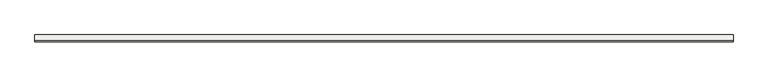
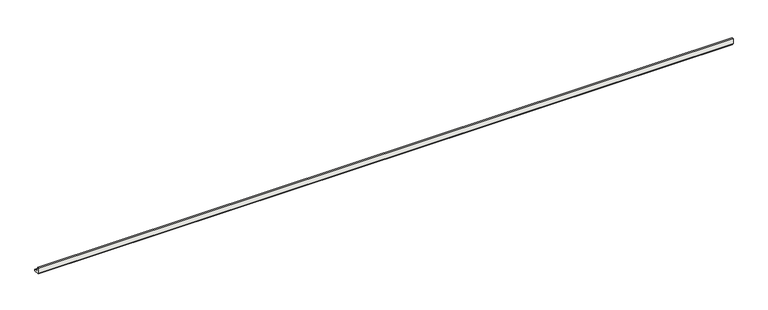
"""IFC4 building model written with IfcOpenShell, lengths in millimetres: slab geometry, ROSA GRES_188 : Pieza 188_Pietro_White_Anti-Slip."""

from ifc_helpers import new_model, si_unit, point, frame, frame_2d, origin, place, context, project, spatial, polyline, circle_curve, trimmed, segment, composite_curve, outline, extrude, source, transform, mapped, element, save


def slab_ea53779e(model_context):
    return source(origin(), model_context, "Body", "SweptSolid", [
        extrude(outline(composite_curve([segment(polyline([(0.0, 8.7114978), (0.0, 40.0), (9.9734114, 40.0)]), True, "CONTINUOUS"), segment(trimmed(circle_curve(frame_2d((39.9955547, 39.9955547)), 30.0221435), [point((9.9734114, 40.0))], [point((40.0, 9.9734114))], True, "CARTESIAN"), True, "CONTINUOUS"), segment(polyline([(40.0, 9.9734114), (40.0, 0.0), (8.7114978, 0.0), (0.0, 8.7114978)]), True, "CONTINUOUS")], self_intersect=False)), frame((0.0, 0.0, 0.0), z_axis=(1.0, 0.0, 0.0), x_axis=(0.0, 1.0, 0.0)), (0.0, 0.0, 1.0), 4012.4734114),
    ])


if __name__ == "__main__":
    model = new_model("IFC4")
    model_context = context("Model", 3, world=origin())
    ifc_project = project(units=[si_unit("LENGTHUNIT", "METRE", prefix="MILLI")], contexts=[model_context])
    site = spatial("IfcSite", under=ifc_project)
    building = spatial("IfcBuilding", under=site)
    placement = place(None, origin())
    slab_shape = slab_ea53779e(model_context)
    element("IfcSlab", 1, ObjectType="ROSA GRES_188 : Pieza 188_Pietro_White_Anti-Slip", at=placement, inside=building, context=model_context, shape_type="MappedRepresentation", body=[
        mapped(slab_shape, transform((0.0, 0.0, 0.0), x_axis=(1.0, 0.0, 0.0), y_axis=(0.0, 1.0, 0.0), z_axis=(0.0, 0.0, 1.0))),
    ])
    save(model, "model.ifc")
